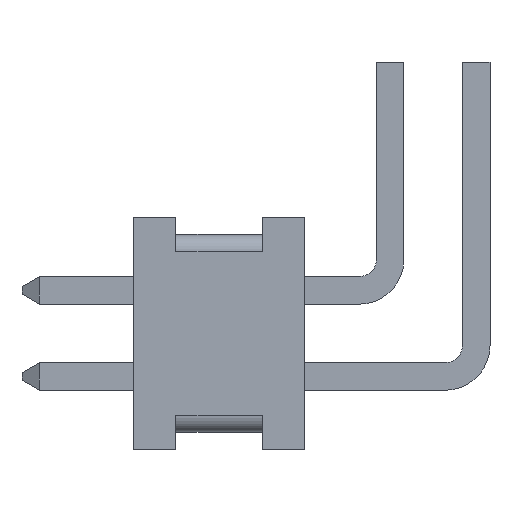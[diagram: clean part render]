
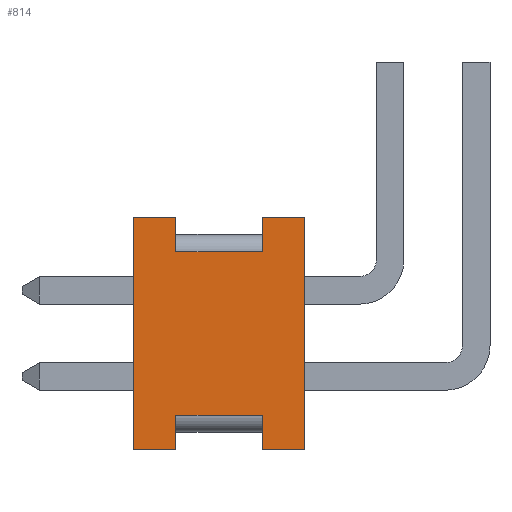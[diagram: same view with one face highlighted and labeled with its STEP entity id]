
A CAD part, left-side view. The second image highlights one B-rep face of the part: STEP entity #814.
In plain terms, the highlighted planar face has unit normal (-1, 0, 0).
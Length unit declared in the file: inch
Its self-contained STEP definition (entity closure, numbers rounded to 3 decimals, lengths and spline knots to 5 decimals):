
#81 = VECTOR ( 'NONE', #971, 39.37008 ) ;
#85 = EDGE_CURVE ( 'NONE', #3558, #3429, #3123, .T. ) ;
#95 = CARTESIAN_POINT ( 'NONE',  ( -0.05, 0.099, -0.0675 ) ) ;
#142 = ORIENTED_EDGE ( 'NONE', *, *, #1205, .T. ) ;
#153 = ORIENTED_EDGE ( 'NONE', *, *, #85, .T. ) ;
#247 = DIRECTION ( 'NONE',  ( 0., -1., 0. ) ) ;
#295 = ORIENTED_EDGE ( 'NONE', *, *, #4042, .T. ) ;
#311 = DIRECTION ( 'NONE',  ( 1., 0., 0. ) ) ;
#342 = CARTESIAN_POINT ( 'NONE',  ( -0.05, 0.099, 0.0675 ) ) ;
#371 = CARTESIAN_POINT ( 'NONE',  ( -0.05, 0.0245, -0.0675 ) ) ;
#391 = DIRECTION ( 'NONE',  ( 0., 0., -1. ) ) ;
#398 = VECTOR ( 'NONE', #2801, 39.37008 ) ;
#437 = ORIENTED_EDGE ( 'NONE', *, *, #3499, .T. ) ;
#485 = VECTOR ( 'NONE', #1321, 39.37008 ) ;
#749 = VERTEX_POINT ( 'NONE', #342 ) ;
#778 = ORIENTED_EDGE ( 'NONE', *, *, #3195, .T. ) ;
#814 = ADVANCED_FACE ( 'NONE', ( #1190 ), #3827, .F. ) ;
#819 = ORIENTED_EDGE ( 'NONE', *, *, #2979, .F. ) ;
#837 = CARTESIAN_POINT ( 'NONE',  ( -0.05, 0., 0.0675 ) ) ;
#971 = DIRECTION ( 'NONE',  ( 0., 0., 1. ) ) ;
#1101 = LINE ( 'NONE', #3163, #2367 ) ;
#1109 = DIRECTION ( 'NONE',  ( 0., 1., 0. ) ) ;
#1135 = CARTESIAN_POINT ( 'NONE',  ( -0.05, 0.0745, 0.0475 ) ) ;
#1190 = FACE_OUTER_BOUND ( 'NONE', #4019, .T. ) ;
#1205 = EDGE_CURVE ( 'NONE', #2471, #2616, #2395, .T. ) ;
#1211 = VECTOR ( 'NONE', #2196, 39.37008 ) ;
#1250 = AXIS2_PLACEMENT_3D ( 'NONE', #3470, #311, #2768 ) ;
#1321 = DIRECTION ( 'NONE',  ( 0., -1., 0. ) ) ;
#1350 = VERTEX_POINT ( 'NONE', #1441 ) ;
#1425 = CARTESIAN_POINT ( 'NONE',  ( -0.05, 0.099, 0.0675 ) ) ;
#1441 = CARTESIAN_POINT ( 'NONE',  ( -0.05, 0.0745, -0.0675 ) ) ;
#1443 = VECTOR ( 'NONE', #3336, 39.37008 ) ;
#1534 = CARTESIAN_POINT ( 'NONE',  ( -0.05, 0.0745, 0.0675 ) ) ;
#1609 = VECTOR ( 'NONE', #2061, 39.37008 ) ;
#1751 = EDGE_CURVE ( 'NONE', #4442, #4549, #4026, .T. ) ;
#1760 = CARTESIAN_POINT ( 'NONE',  ( -0.05, 0.0245, 0.0675 ) ) ;
#1761 = VERTEX_POINT ( 'NONE', #4518 ) ;
#1788 = LINE ( 'NONE', #3907, #2131 ) ;
#1805 = EDGE_CURVE ( 'NONE', #749, #4549, #2652, .T. ) ;
#1918 = CARTESIAN_POINT ( 'NONE',  ( -0.05, 0.0245, 0.0475 ) ) ;
#1951 = CARTESIAN_POINT ( 'NONE',  ( -0.05, 0.0245, 0.0675 ) ) ;
#1970 = VECTOR ( 'NONE', #4454, 39.37008 ) ;
#2003 = CARTESIAN_POINT ( 'NONE',  ( -0.05, 0.0745, -0.0675 ) ) ;
#2033 = LINE ( 'NONE', #95, #1211 ) ;
#2061 = DIRECTION ( 'NONE',  ( 0., 0., 1. ) ) ;
#2080 = CARTESIAN_POINT ( 'NONE',  ( -0.05, 0.099, 0.0675 ) ) ;
#2131 = VECTOR ( 'NONE', #4540, 39.37008 ) ;
#2196 = DIRECTION ( 'NONE',  ( 0., -1., 0. ) ) ;
#2231 = VECTOR ( 'NONE', #391, 39.37008 ) ;
#2337 = VECTOR ( 'NONE', #247, 39.37008 ) ;
#2367 = VECTOR ( 'NONE', #1109, 39.37008 ) ;
#2395 = LINE ( 'NONE', #1951, #1443 ) ;
#2459 = EDGE_CURVE ( 'NONE', #3688, #4286, #1788, .T. ) ;
#2463 = DIRECTION ( 'NONE',  ( 0., 0., 1. ) ) ;
#2469 = CARTESIAN_POINT ( 'NONE',  ( -0.05, 0.0745, -0.0475 ) ) ;
#2471 = VERTEX_POINT ( 'NONE', #1760 ) ;
#2561 = VERTEX_POINT ( 'NONE', #837 ) ;
#2616 = VERTEX_POINT ( 'NONE', #1918 ) ;
#2652 = LINE ( 'NONE', #2080, #2337 ) ;
#2768 = DIRECTION ( 'NONE',  ( 0., 0., -1. ) ) ;
#2801 = DIRECTION ( 'NONE',  ( 0., -1., 0. ) ) ;
#2979 = EDGE_CURVE ( 'NONE', #1761, #749, #3009, .T. ) ;
#2983 = LINE ( 'NONE', #1425, #398 ) ;
#3009 = LINE ( 'NONE', #4213, #4329 ) ;
#3022 = ORIENTED_EDGE ( 'NONE', *, *, #3471, .T. ) ;
#3036 = CARTESIAN_POINT ( 'NONE',  ( -0.05, 0.0245, -0.0475 ) ) ;
#3043 = EDGE_CURVE ( 'NONE', #2616, #4442, #1101, .T. ) ;
#3060 = LINE ( 'NONE', #2003, #1970 ) ;
#3123 = LINE ( 'NONE', #4135, #485 ) ;
#3163 = CARTESIAN_POINT ( 'NONE',  ( -0.05, 0.099, 0.0475 ) ) ;
#3195 = EDGE_CURVE ( 'NONE', #1761, #1350, #2033, .T. ) ;
#3204 = CARTESIAN_POINT ( 'NONE',  ( -0.05, 0.0245, -0.0675 ) ) ;
#3297 = ORIENTED_EDGE ( 'NONE', *, *, #3043, .T. ) ;
#3336 = DIRECTION ( 'NONE',  ( 0., 0., -1. ) ) ;
#3399 = CARTESIAN_POINT ( 'NONE',  ( -0.05, 0., 0.0675 ) ) ;
#3429 = VERTEX_POINT ( 'NONE', #3036 ) ;
#3470 = CARTESIAN_POINT ( 'NONE',  ( -0.05, 0.099, 0.0675 ) ) ;
#3471 = EDGE_CURVE ( 'NONE', #4286, #2561, #3773, .T. ) ;
#3474 = LINE ( 'NONE', #3204, #2231 ) ;
#3499 = EDGE_CURVE ( 'NONE', #1350, #3558, #3060, .T. ) ;
#3558 = VERTEX_POINT ( 'NONE', #2469 ) ;
#3688 = VERTEX_POINT ( 'NONE', #371 ) ;
#3773 = LINE ( 'NONE', #3399, #81 ) ;
#3827 = PLANE ( 'NONE',  #1250 ) ;
#3907 = CARTESIAN_POINT ( 'NONE',  ( -0.05, 0.099, -0.0675 ) ) ;
#4019 = EDGE_LOOP ( 'NONE', ( #3297, #4172, #4184, #819, #778, #437, #153, #295, #4273, #3022, #4275, #142 ) ) ;
#4026 = LINE ( 'NONE', #4157, #1609 ) ;
#4042 = EDGE_CURVE ( 'NONE', #3429, #3688, #3474, .T. ) ;
#4135 = CARTESIAN_POINT ( 'NONE',  ( -0.05, 0.099, -0.0475 ) ) ;
#4157 = CARTESIAN_POINT ( 'NONE',  ( -0.05, 0.0745, 0.0675 ) ) ;
#4172 = ORIENTED_EDGE ( 'NONE', *, *, #1751, .T. ) ;
#4184 = ORIENTED_EDGE ( 'NONE', *, *, #1805, .F. ) ;
#4213 = CARTESIAN_POINT ( 'NONE',  ( -0.05, 0.099, 0.0675 ) ) ;
#4273 = ORIENTED_EDGE ( 'NONE', *, *, #2459, .T. ) ;
#4275 = ORIENTED_EDGE ( 'NONE', *, *, #4370, .F. ) ;
#4286 = VERTEX_POINT ( 'NONE', #4508 ) ;
#4329 = VECTOR ( 'NONE', #2463, 39.37008 ) ;
#4370 = EDGE_CURVE ( 'NONE', #2471, #2561, #2983, .T. ) ;
#4442 = VERTEX_POINT ( 'NONE', #1135 ) ;
#4454 = DIRECTION ( 'NONE',  ( 0., 0., 1. ) ) ;
#4508 = CARTESIAN_POINT ( 'NONE',  ( -0.05, 0., -0.0675 ) ) ;
#4518 = CARTESIAN_POINT ( 'NONE',  ( -0.05, 0.099, -0.0675 ) ) ;
#4540 = DIRECTION ( 'NONE',  ( 0., -1., 0. ) ) ;
#4549 = VERTEX_POINT ( 'NONE', #1534 ) ;
